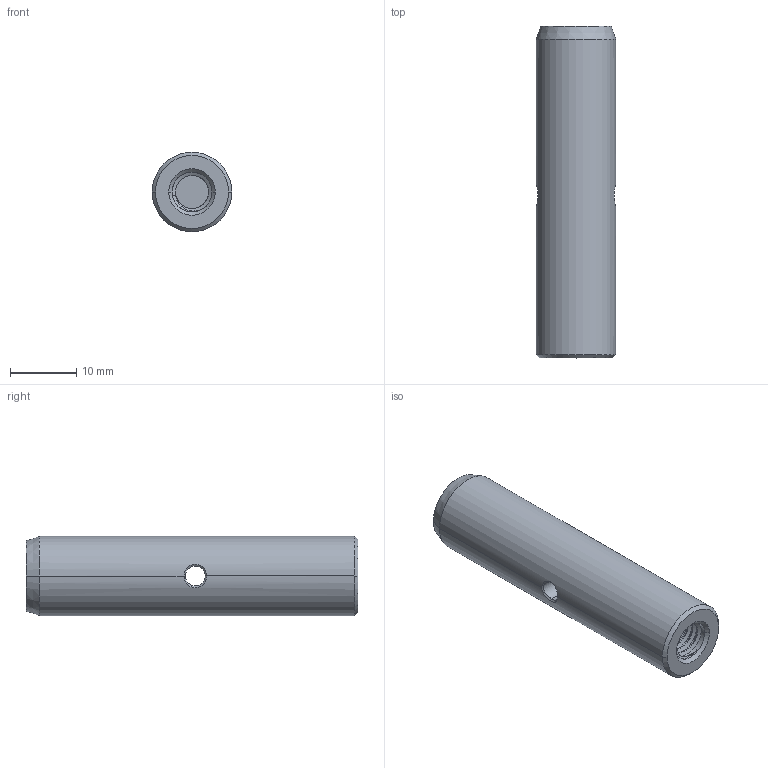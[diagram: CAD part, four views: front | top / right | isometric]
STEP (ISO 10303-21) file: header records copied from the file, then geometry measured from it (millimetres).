
FILE_DESCRIPTION((''),'2;1');
FILE_NAME('PCA5-S','2020-10-27T',('Administrator'),(''),'CREO PARAMETRIC BY PTC INC, 2015290','CREO PARAMETRIC BY PTC INC, 2015290','');
FILE_SCHEMA(('CONFIG_CONTROL_DESIGN'));
Length unit declared in the file: millimetre
Products named in the file (1): PCA5-S
Bounding box: 12 x 50 x 12 mm (x, y, z)
Volume: 5096.5 mm3; surface area: 2687.9 mm2
Topology: 1 solids, 1 shells, 127 faces, 333 edges, 208 vertices
Faces by surface type: cylinder 66, bspline 49, cone 8, plane 4
Entity records: 11682 total; most frequent: CARTESIAN_POINT 9037, ORIENTED_EDGE 666, EDGE_CURVE 333, DIRECTION 323, VERTEX_POINT 208, B_SPLINE_CURVE_WITH_KNOTS 187, EDGE_LOOP 129, FACE_OUTER_BOUND 127
